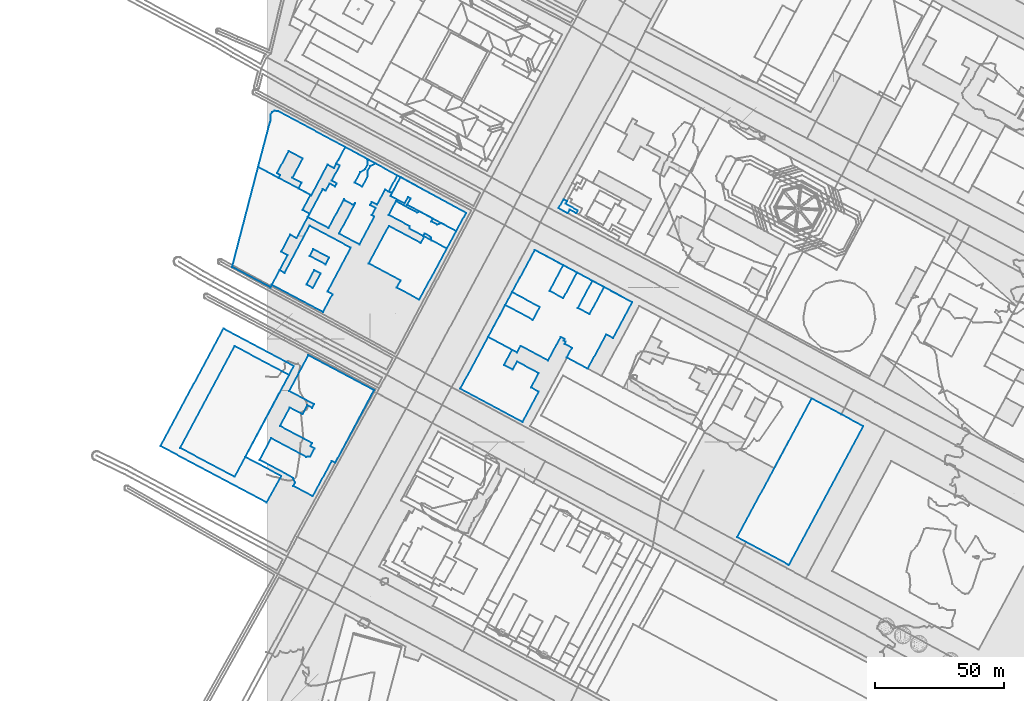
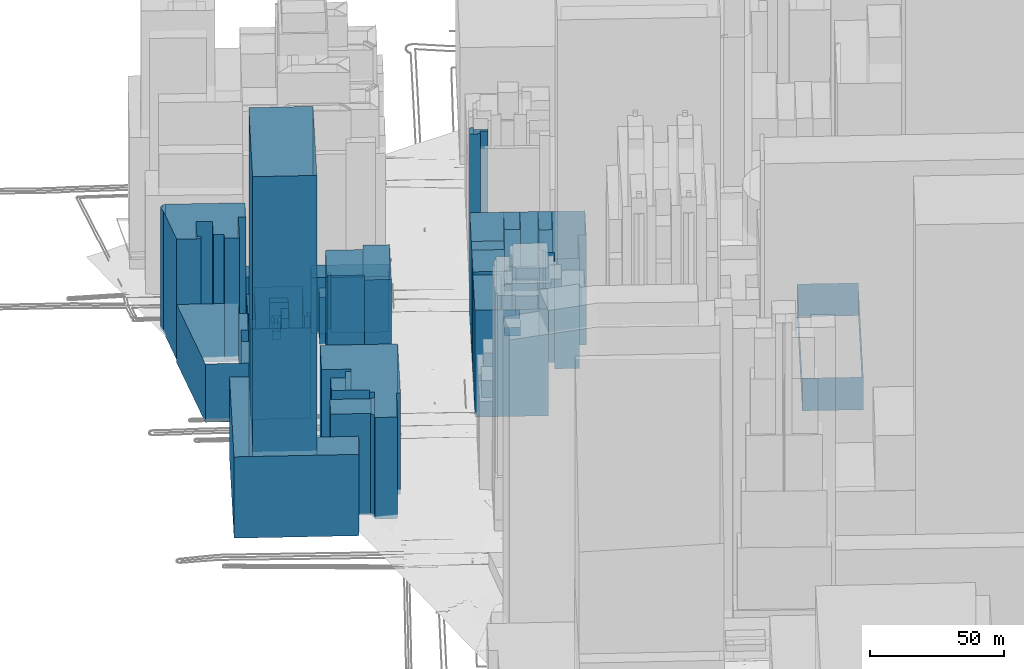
# Not in any storey, part 22 of 76: 21 walls.
"""IFC2X3 model written with IfcOpenShell, lengths in metres."""

from ifc_helpers import new_model, si_unit, frame, origin_with_axes, place, context, subcontext, project, faceted_brep, element, save


model = new_model("IFC2X3")

# Units and contexts
model_context = context("Model", 3, precision=1e-05, world=origin_with_axes())
body_context = subcontext(model_context, "Body", "Model", "MODEL_VIEW")
ifc_project = project(units=[si_unit("AREAUNIT", "SQUARE_METRE"), si_unit("LENGTHUNIT", "METRE")], contexts=[model_context])

# Walls
wall_1_placement = place(None, frame((182.6039745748, 162.5591833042, 20.6927717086), z_axis=(0.0, 0.0, 1.0), x_axis=(1.0, 0.0, 0.0)))
element("IfcWall", 1, at=wall_1_placement, Name="Mur 0", context=body_context, shape_type="Brep", body=[
    faceted_brep([(20.0810169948, -10.7688576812, 14.8999996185), (0.0, 0.0, 14.8999996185), (20.0810169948, -10.7688576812, 0.0), (0.0, 0.0, 0.0), (48.9829273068, 43.1023540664, 14.8999996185), (48.9829273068, 43.1023540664, 0.0), (28.9020091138, 53.8711326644, 14.8999996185), (28.9020091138, 53.8711326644, 0.0)], [[[0, 1, 2]], [[2, 1, 3]], [[4, 0, 5]], [[5, 0, 2]], [[1, 6, 3]], [[3, 6, 7]], [[6, 4, 7]], [[7, 4, 5]]]),
])
wall_2_placement = place(None, frame((85.8984085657, 240.2837612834, 20.6241127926), z_axis=(0.0, 0.0, 1.0), x_axis=(1.0, 0.0, 0.0)))
element("IfcWall", 2, at=wall_2_placement, Name="Mur 0", context=body_context, shape_type="Brep", body=[
    faceted_brep([(11.2465195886, -6.0311397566, 50.0), (0.0, 0.0, 50.0), (11.2465195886, -6.0311397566, 0.0), (0.0, 0.0, 0.0), (12.6512037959, -3.4168984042, 50.0), (12.6512037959, -3.4168984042, 0.0), (23.2861681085, -9.1220554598, 50.0), (23.2861681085, -9.1220554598, 0.0), (28.2024169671, 0.0388994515, 50.0), (28.2024169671, 0.0388994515, 0.0), (29.7229034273, -0.776106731, 50.0), (29.7229034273, -0.776106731, 0.0), (29.3592670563, -1.4464661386, 50.0), (29.3592670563, -1.4464661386, 0.0), (30.1152258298, -1.848467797, 50.0), (30.1152258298, -1.848467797, 0.0), (29.6773030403, -2.6640194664, 50.0), (29.6773030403, -2.6640194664, 0.0), (32.5654494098, -4.2180905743, 50.0), (32.5654494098, -4.2180905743, 0.0), (30.5658357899, -7.9383700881, 50.0), (30.5658357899, -7.9383700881, 0.0), (38.6867515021, -12.3182352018, 50.0), (38.6867515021, -12.3182352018, 0.0), (45.8336301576, 1.0208901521, 50.0), (45.8336301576, 1.0208901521, 0.0), (48.5348020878, -0.4243246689, 50.0), (48.5348020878, -0.4243246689, 0.0), (55.9958034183, 13.4846763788, 50.0), (55.9958034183, 13.4846763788, 0.0), (18.1278687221, 33.8059517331, 50.0), (18.1278687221, 33.8059517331, 0.0)], [[[0, 1, 2]], [[2, 1, 3]], [[4, 0, 5]], [[5, 0, 2]], [[6, 4, 7]], [[7, 4, 5]], [[8, 6, 9]], [[9, 6, 7]], [[10, 8, 11]], [[11, 8, 9]], [[12, 10, 13]], [[13, 10, 11]], [[14, 12, 15]], [[15, 12, 13]], [[16, 14, 17]], [[17, 14, 15]], [[18, 16, 19]], [[19, 16, 17]], [[20, 18, 21]], [[21, 18, 19]], [[22, 20, 23]], [[23, 20, 21]], [[24, 22, 25]], [[25, 22, 23]], [[26, 24, 27]], [[27, 24, 25]], [[28, 26, 29]], [[29, 26, 27]], [[1, 30, 3]], [[3, 30, 31]], [[30, 28, 31]], [[31, 28, 29]]]),
])
wall_3_placement = place(None, frame((85.8984085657, 240.2837612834, 20.6241127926), z_axis=(0.0, 0.0, 1.0), x_axis=(1.0, 0.0, 0.0)))
element("IfcWall", 3, at=wall_3_placement, Name="Mur 0", context=body_context, shape_type="Brep", body=[
    faceted_brep([(11.2465195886, -6.0311397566, 50.0), (0.0, 0.0, 50.0), (11.2465195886, -6.0311397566, 0.0), (0.0, 0.0, 0.0), (12.6512037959, -3.4168984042, 50.0), (12.6512037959, -3.4168984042, 0.0), (23.2861681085, -9.1220554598, 50.0), (23.2861681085, -9.1220554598, 0.0), (28.2024169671, 0.0388994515, 50.0), (28.2024169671, 0.0388994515, 0.0), (29.7229034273, -0.776106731, 50.0), (29.7229034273, -0.776106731, 0.0), (29.3592670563, -1.4464661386, 50.0), (29.3592670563, -1.4464661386, 0.0), (30.1152258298, -1.848467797, 50.0), (30.1152258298, -1.848467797, 0.0), (29.6773030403, -2.6640194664, 50.0), (29.6773030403, -2.6640194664, 0.0), (32.5654494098, -4.2180905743, 50.0), (32.5654494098, -4.2180905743, 0.0), (30.5658357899, -7.9383700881, 50.0), (30.5658357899, -7.9383700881, 0.0), (38.6867515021, -12.3182352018, 50.0), (38.6867515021, -12.3182352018, 0.0), (45.8336301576, 1.0208901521, 50.0), (45.8336301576, 1.0208901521, 0.0), (48.5348020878, -0.4243246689, 50.0), (48.5348020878, -0.4243246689, 0.0), (55.9958034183, 13.4846763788, 50.0), (55.9958034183, 13.4846763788, 0.0), (45.0379209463, 19.3747728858, 50.0), (45.0379209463, 19.3747728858, 0.0), (39.3945655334, 8.8619853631, 50.0), (39.3945655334, 8.8619853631, 0.0), (34.8585594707, 11.2961922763, 50.0), (34.8585594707, 11.2961922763, 0.0), (40.5020482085, 21.7978755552, 50.0), (40.5020482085, 21.7978755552, 0.0), (34.5220457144, 25.003566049, 50.0), (34.5220457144, 25.003566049, 0.0), (29.1928346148, 15.0606509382, 50.0), (29.1928346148, 15.0606509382, 0.0), (23.8498507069, 17.92958022, 50.0), (23.8498507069, 17.92958022, 0.0), (29.1875069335, 27.8725894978, 50.0), (29.1875069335, 27.8725894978, 0.0), (18.1278687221, 33.8059517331, 50.0), (18.1278687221, 33.8059517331, 0.0), (9.3283721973, 17.3945398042, 50.0), (9.3283721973, 17.3945398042, 0.0), (20.0566635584, 11.6460536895, 50.0), (20.0566635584, 11.6460536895, 0.0), (17.387953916, 6.6634513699, 50.0), (17.387953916, 6.6634513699, 0.0), (6.6595287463, 12.4230421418, 50.0), (6.6595287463, 12.4230421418, 0.0)], [[[0, 1, 2]], [[2, 1, 3]], [[4, 0, 5]], [[5, 0, 2]], [[6, 4, 7]], [[7, 4, 5]], [[8, 6, 9]], [[9, 6, 7]], [[10, 8, 11]], [[11, 8, 9]], [[12, 10, 13]], [[13, 10, 11]], [[14, 12, 15]], [[15, 12, 13]], [[16, 14, 17]], [[17, 14, 15]], [[18, 16, 19]], [[19, 16, 17]], [[20, 18, 21]], [[21, 18, 19]], [[22, 20, 23]], [[23, 20, 21]], [[24, 22, 25]], [[25, 22, 23]], [[26, 24, 27]], [[27, 24, 25]], [[28, 26, 29]], [[29, 26, 27]], [[30, 28, 31]], [[31, 28, 29]], [[32, 30, 33]], [[33, 30, 31]], [[34, 32, 35]], [[35, 32, 33]], [[36, 34, 37]], [[37, 34, 35]], [[38, 36, 39]], [[39, 36, 37]], [[40, 38, 41]], [[41, 38, 39]], [[42, 40, 43]], [[43, 40, 41]], [[44, 42, 45]], [[45, 42, 43]], [[46, 44, 47]], [[47, 44, 45]], [[48, 46, 49]], [[49, 46, 47]], [[50, 48, 51]], [[51, 48, 49]], [[52, 50, 53]], [[53, 50, 51]], [[1, 54, 3]], [[3, 54, 55]], [[54, 52, 55]], [[55, 52, 53]]]),
])
wall_4_placement = place(None, frame((109.7482592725, 258.2133415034, 22.1609130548), z_axis=(0.0, 0.0, 1.0), x_axis=(1.0, 0.0, 0.0)))
element("IfcWall", 4, at=wall_4_placement, Name="Mur 0", context=body_context, shape_type="Brep", body=[
    faceted_brep([(5.3429839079, -2.8689292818, 4.0), (0.0, 0.0, 4.0), (5.3429839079, -2.8689292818, 0.0), (0.0, 0.0, 0.0), (10.6721950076, 7.073985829, 4.0), (10.6721950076, 7.073985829, 0.0), (5.3376562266, 9.9430092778, 4.0), (5.3376562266, 9.9430092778, 0.0)], [[[0, 1, 2]], [[2, 1, 3]], [[4, 0, 5]], [[5, 0, 2]], [[1, 6, 3]], [[3, 6, 7]], [[6, 4, 7]], [[7, 4, 5]]]),
])
wall_5_placement = place(None, frame((113.2505831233, 290.2618220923, 23.4496714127), z_axis=(0.0, 0.0, 1.0), x_axis=(1.0, 0.0, 0.0)))
element("IfcWall", 5, at=wall_5_placement, Name="Mur 0", context=body_context, shape_type="Brep", body=[
    faceted_brep([(3.5507210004, -1.912748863, 70.0), (0.0, 0.0, 70.0), (3.5507210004, -1.912748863, 0.0), (0.0, 0.0, 0.0), (4.3278559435, -0.5048368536, 70.0), (4.3278559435, -0.5048368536, 0.0), (6.9103282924, -1.9070263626, 70.0), (6.9103282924, -1.9070263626, 0.0), (7.4887654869, -0.8344899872, 70.0), (7.4887654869, -0.8344899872, 0.0), (2.7316622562, 1.7414799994, 70.0), (2.7316622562, 1.7414799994, 0.0), (3.2685432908, 2.7580220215, 70.0), (3.2685432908, 2.7580220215, 0.0), (1.9180329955, 3.4750820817, 70.0), (1.9180329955, 3.4750820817, 0.0)], [[[0, 1, 2]], [[2, 1, 3]], [[4, 0, 5]], [[5, 0, 2]], [[6, 4, 7]], [[7, 4, 5]], [[8, 6, 9]], [[9, 6, 7]], [[10, 8, 11]], [[11, 8, 9]], [[12, 10, 13]], [[13, 10, 11]], [[1, 14, 3]], [[3, 14, 15]], [[14, 12, 15]], [[15, 12, 13]]]),
])
wall_6_placement = place(None, frame((-13.4692579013, 267.507853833, 20.5235292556), z_axis=(0.0, 0.0, 1.0), x_axis=(1.0, 0.0, 0.0)))
element("IfcWall", 6, at=wall_6_placement, Name="Mur 0", context=body_context, shape_type="Brep", body=[
    faceted_brep([(14.8729310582, -7.9321108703, 26.5), (0.0, 0.0, 26.5), (14.8729310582, -7.9321108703, 0.0), (0.0, 0.0, 0.0), (21.5236253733, 4.535158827, 26.5), (21.5236253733, 4.535158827, 0.0), (19.0179048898, 5.871663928, 26.5), (19.0179048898, 5.871663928, 0.0), (22.5456521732, 12.4851249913, 26.5), (22.5456521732, 12.4851249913, 0.0), (25.0429308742, 11.1485231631, 26.5), (25.0429308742, 11.1485231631, 0.0), (30.1073251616, 20.644198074, 26.5), (30.1073251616, 20.644198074, 0.0), (27.3212769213, 22.1328790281, 26.5), (27.3212769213, 22.1328790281, 0.0), (30.4109499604, 27.9418994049, 26.5), (30.4109499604, 27.9418994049, 0.0), (10.0850586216, 38.7750178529, 26.5), (10.0850586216, 38.7750178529, 0.0)], [[[0, 1, 2]], [[2, 1, 3]], [[4, 0, 5]], [[5, 0, 2]], [[6, 4, 7]], [[7, 4, 5]], [[8, 6, 9]], [[9, 6, 7]], [[10, 8, 11]], [[11, 8, 9]], [[12, 10, 13]], [[13, 10, 11]], [[14, 12, 15]], [[15, 12, 13]], [[16, 14, 17]], [[17, 14, 15]], [[1, 18, 3]], [[3, 18, 19]], [[18, 16, 19]], [[19, 16, 17]]]),
])
wall_7_placement = place(None, frame((-3.3841992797, 306.2828716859, 21.8195391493), z_axis=(0.0, 0.0, 1.0), x_axis=(1.0, 0.0, 0.0)))
element("IfcWall", 7, at=wall_7_placement, Name="Mur 0", context=body_context, shape_type="Brep", body=[
    faceted_brep([(7.9587232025, -4.2375453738, 54.9000015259), (0.0, 0.0, 54.9000015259), (7.9587232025, -4.2375453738, 0.0), (0.0, 0.0, 0.0), (8.5865292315, -3.0534231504, 54.9000015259), (8.5865292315, -3.0534231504, 0.0), (7.3125093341, -2.3798647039, 54.9000015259), (7.3125093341, -2.3798647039, 0.0), (11.8893541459, 6.2108665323, 54.9000015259), (11.8893541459, 6.2108665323, 0.0), (17.3086069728, 3.3094443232, 54.9000015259), (17.3086069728, 3.3094443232, 0.0), (13.3099607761, -4.1865612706, 54.9000015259), (13.3099607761, -4.1865612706, 0.0), (16.8944091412, -6.0989674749, 54.9000015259), (16.8944091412, -6.0989674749, 0.0), (15.6882811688, -8.366718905, 54.9000015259), (15.6882811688, -8.366718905, 0.0), (20.6318009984, -11.0072048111, 54.9000015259), (20.6318009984, -11.0072048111, 0.0), (26.9684045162, 0.8791195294, 54.9000015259), (26.9684045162, 0.8791195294, 0.0), (29.4571079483, -0.4464745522, 54.9000015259), (29.4571079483, -0.4464745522, 0.0), (33.8274296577, 7.7532955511, 54.9000015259), (33.8274296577, 7.7532955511, 0.0), (7.7846017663, 21.6841879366, 54.9000015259), (7.7846017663, 21.6841879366, 0.0), (6.347319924, 21.8784555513, 54.9000015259), (6.347319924, 21.8784555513, 0.0), (5.3911895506, 21.3455570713, 54.9000015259), (5.3911895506, 21.3455570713, 0.0), (4.8705322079, 20.3847231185, 54.9000015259), (4.8705322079, 20.3847231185, 0.0), (4.8038334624, 18.1301925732, 54.9000015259), (4.8038334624, 18.1301925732, 0.0)], [[[0, 1, 2]], [[2, 1, 3]], [[4, 0, 5]], [[5, 0, 2]], [[6, 4, 7]], [[7, 4, 5]], [[8, 6, 9]], [[9, 6, 7]], [[10, 8, 11]], [[11, 8, 9]], [[12, 10, 13]], [[13, 10, 11]], [[14, 12, 15]], [[15, 12, 13]], [[16, 14, 17]], [[17, 14, 15]], [[18, 16, 19]], [[19, 16, 17]], [[20, 18, 21]], [[21, 18, 19]], [[22, 20, 23]], [[23, 20, 21]], [[24, 22, 25]], [[25, 22, 23]], [[26, 24, 27]], [[27, 24, 25]], [[28, 26, 29]], [[29, 26, 27]], [[30, 28, 31]], [[31, 28, 29]], [[32, 30, 33]], [[33, 30, 31]], [[1, 34, 3]], [[3, 34, 35]], [[34, 32, 35]], [[35, 32, 33]]]),
])
wall_8_placement = place(None, frame((47.3240526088, 296.7460494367, 22.6341458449), z_axis=(0.0, 0.0, 1.0), x_axis=(1.0, 0.0, 0.0)))
element("IfcWall", 8, at=wall_8_placement, Name="Mur 0", context=body_context, shape_type="Brep", body=[
    faceted_brep([(1.2145569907, -0.6409345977, 4.0), (0.0, 0.0, 4.0), (1.2145569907, -0.6409345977, 0.0), (0.0, 0.0, 0.0), (4.5862716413, 5.5932606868, 4.0), (4.5862716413, 5.5932606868, 0.0), (3.3375678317, 6.267105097, 4.0), (3.3375678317, 6.267105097, 0.0)], [[[0, 1, 2]], [[2, 1, 3]], [[4, 0, 5]], [[5, 0, 2]], [[1, 6, 3]], [[3, 6, 7]], [[6, 4, 7]], [[7, 4, 5]]]),
])
wall_9_placement = place(None, frame((15.9441565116, 286.8450369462, 20.647913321), z_axis=(0.0, 0.0, 1.0), x_axis=(1.0, 0.0, 0.0)))
element("IfcWall", 9, at=wall_9_placement, Name="Mur 0", context=body_context, shape_type="Brep", body=[
    faceted_brep([(8.0352328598, -4.2810464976, 27.3999996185), (0.0, 0.0, 27.3999996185), (8.0352328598, -4.2810464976, 0.0), (0.0, 0.0, 0.0), (14.0662474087, 7.0244198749, 27.3999996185), (14.0662474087, 7.0244198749, 0.0), (14.5213100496, 6.363565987, 27.3999996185), (14.5213100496, 6.363565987, 0.0), (17.3582596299, 4.8532774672, 27.3999996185), (17.3582596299, 4.8532774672, 0.0), (18.4068488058, 5.4205597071, 27.3999996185), (18.4068488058, 5.4205597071, 0.0), (12.0868715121, -6.4433762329, 27.3999996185), (12.0868715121, -6.4433762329, 0.0), (20.0203200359, -10.6811822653, 27.3999996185), (20.0203200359, -10.6811822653, 0.0), (25.8033972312, 0.1662240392, 27.3999996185), (25.8033972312, 0.1662240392, 0.0), (24.7841247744, 0.7095061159, 27.3999996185), (24.7841247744, 0.7095061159, 0.0), (26.2793412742, 3.5246280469, 27.3999996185), (26.2793412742, 3.5246280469, 0.0), (24.1813290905, 4.6438087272, 27.3999996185), (24.1813290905, 4.6438087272, 0.0), (24.8257532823, 5.8503314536, 27.3999996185), (24.8257532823, 5.8503314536, 0.0), (26.8302782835, 4.7855771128, 27.3999996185), (26.8302782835, 4.7855771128, 0.0), (29.9614850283, 10.6506035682, 27.3999996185), (29.9614850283, 10.6506035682, 0.0), (31.3798960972, 9.9010124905, 27.3999996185), (31.3798960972, 9.9010124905, 0.0), (34.717463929, 16.1681175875, 27.3999996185), (34.717463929, 16.1681175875, 0.0), (14.4990738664, 27.1911302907, 27.3999996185), (14.4990738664, 27.1911302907, 0.0), (11.0539615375, 20.7340482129, 27.3999996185), (11.0539615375, 20.7340482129, 0.0), (12.3874511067, 20.0278770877, 27.3999996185), (12.3874511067, 20.0278770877, 0.0), (9.2563637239, 14.1517573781, 27.3999996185), (9.2563637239, 14.1517573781, 0.0), (11.2354346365, 13.0978057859, 27.3999996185), (11.2354346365, 13.0978057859, 0.0), (10.5910089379, 11.8912842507, 27.3999996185), (10.5910089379, 11.8912842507, 0.0), (8.3996436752, 13.0537949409, 27.3999996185), (8.3996436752, 13.0537949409, 0.0), (6.9042937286, 10.2497774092, 27.3999996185), (6.9042937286, 10.2497774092, 0.0), (5.7830971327, 10.847390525, 27.3999996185), (5.7830971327, 10.847390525, 0.0)], [[[0, 1, 2]], [[2, 1, 3]], [[4, 0, 5]], [[5, 0, 2]], [[6, 4, 7]], [[7, 4, 5]], [[8, 6, 9]], [[9, 6, 7]], [[10, 8, 11]], [[11, 8, 9]], [[12, 10, 13]], [[13, 10, 11]], [[14, 12, 15]], [[15, 12, 13]], [[16, 14, 17]], [[17, 14, 15]], [[18, 16, 19]], [[19, 16, 17]], [[20, 18, 21]], [[21, 18, 19]], [[22, 20, 23]], [[23, 20, 21]], [[24, 22, 25]], [[25, 22, 23]], [[26, 24, 27]], [[27, 24, 25]], [[28, 26, 29]], [[29, 26, 27]], [[30, 28, 31]], [[31, 28, 29]], [[32, 30, 33]], [[33, 30, 31]], [[34, 32, 35]], [[35, 32, 33]], [[36, 34, 37]], [[37, 34, 35]], [[38, 36, 39]], [[39, 36, 37]], [[40, 38, 41]], [[41, 38, 39]], [[42, 40, 43]], [[43, 40, 41]], [[44, 42, 45]], [[45, 42, 43]], [[46, 44, 47]], [[47, 44, 45]], [[48, 46, 49]], [[49, 46, 47]], [[1, 50, 3]], [[3, 50, 51]], [[50, 48, 51]], [[51, 48, 49]]]),
])
wall_10_placement = place(None, frame((15.9441565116, 286.8450369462, 20.647913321), z_axis=(0.0, 0.0, 1.0), x_axis=(1.0, 0.0, 0.0)))
element("IfcWall", 10, at=wall_10_placement, Name="Mur 0", context=body_context, shape_type="Brep", body=[
    faceted_brep([(8.0352328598, -4.2810464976, 27.3999996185), (0.0, 0.0, 27.3999996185), (8.0352328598, -4.2810464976, 0.0), (0.0, 0.0, 0.0), (14.0662474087, 7.0244198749, 27.3999996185), (14.0662474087, 7.0244198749, 0.0), (14.5213100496, 6.363565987, 27.3999996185), (14.5213100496, 6.363565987, 0.0), (17.3582596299, 4.8532774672, 27.3999996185), (17.3582596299, 4.8532774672, 0.0), (18.4068488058, 5.4205597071, 27.3999996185), (18.4068488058, 5.4205597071, 0.0), (12.0868715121, -6.4433762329, 27.3999996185), (12.0868715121, -6.4433762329, 0.0), (20.0203200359, -10.6811822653, 27.3999996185), (20.0203200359, -10.6811822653, 0.0), (25.8033972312, 0.1662240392, 27.3999996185), (25.8033972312, 0.1662240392, 0.0), (24.7841247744, 0.7095061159, 27.3999996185), (24.7841247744, 0.7095061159, 0.0), (26.2793412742, 3.5246280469, 27.3999996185), (26.2793412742, 3.5246280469, 0.0), (24.1813290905, 4.6438087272, 27.3999996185), (24.1813290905, 4.6438087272, 0.0), (24.8257532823, 5.8503314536, 27.3999996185), (24.8257532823, 5.8503314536, 0.0), (26.8302782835, 4.7855771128, 27.3999996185), (26.8302782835, 4.7855771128, 0.0), (29.9614850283, 10.6506035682, 27.3999996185), (29.9614850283, 10.6506035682, 0.0), (31.3798960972, 9.9010124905, 27.3999996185), (31.3798960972, 9.9010124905, 0.0), (34.717463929, 16.1681175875, 27.3999996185), (34.717463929, 16.1681175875, 0.0), (26.2477906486, 20.7882623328, 27.3999996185), (26.2477906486, 20.7882623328, 0.0), (24.2412699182, 19.8434861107, 27.3999996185), (24.2412699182, 19.8434861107, 0.0), (23.2746353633, 18.0337020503, 27.3999996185), (23.2746353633, 18.0337020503, 0.0), (23.2917057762, 15.8356544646, 27.3999996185), (23.2917057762, 15.8356544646, 0.0), (21.13557285, 11.7805123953, 27.3999996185), (21.13557285, 11.7805123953, 0.0), (18.213707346, 13.3342229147, 27.3999996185), (18.213707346, 13.3342229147, 0.0), (20.3782815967, 17.3894620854, 27.3999996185), (20.3782815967, 17.3894620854, 0.0), (22.2214757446, 18.5876933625, 27.3999996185), (22.2214757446, 18.5876933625, 0.0), (23.1881104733, 20.3974772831, 27.3999996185), (23.1881104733, 20.3974772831, 0.0), (23.1045489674, 22.5059351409, 27.3999996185), (23.1045489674, 22.5059351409, 0.0), (14.4990738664, 27.1911302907, 27.3999996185), (14.4990738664, 27.1911302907, 0.0), (11.0539615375, 20.7340482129, 27.3999996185), (11.0539615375, 20.7340482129, 0.0), (12.3874511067, 20.0278770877, 27.3999996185), (12.3874511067, 20.0278770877, 0.0), (9.2563637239, 14.1517573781, 27.3999996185), (9.2563637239, 14.1517573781, 0.0), (11.2354346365, 13.0978057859, 27.3999996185), (11.2354346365, 13.0978057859, 0.0), (10.5910089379, 11.8912842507, 27.3999996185), (10.5910089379, 11.8912842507, 0.0), (8.3996436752, 13.0537949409, 27.3999996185), (8.3996436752, 13.0537949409, 0.0), (6.9042937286, 10.2497774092, 27.3999996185), (6.9042937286, 10.2497774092, 0.0), (5.7830971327, 10.847390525, 27.3999996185), (5.7830971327, 10.847390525, 0.0)], [[[0, 1, 2]], [[2, 1, 3]], [[4, 0, 5]], [[5, 0, 2]], [[6, 4, 7]], [[7, 4, 5]], [[8, 6, 9]], [[9, 6, 7]], [[10, 8, 11]], [[11, 8, 9]], [[12, 10, 13]], [[13, 10, 11]], [[14, 12, 15]], [[15, 12, 13]], [[16, 14, 17]], [[17, 14, 15]], [[18, 16, 19]], [[19, 16, 17]], [[20, 18, 21]], [[21, 18, 19]], [[22, 20, 23]], [[23, 20, 21]], [[24, 22, 25]], [[25, 22, 23]], [[26, 24, 27]], [[27, 24, 25]], [[28, 26, 29]], [[29, 26, 27]], [[30, 28, 31]], [[31, 28, 29]], [[32, 30, 33]], [[33, 30, 31]], [[34, 32, 35]], [[35, 32, 33]], [[36, 34, 37]], [[37, 34, 35]], [[38, 36, 39]], [[39, 36, 37]], [[40, 38, 41]], [[41, 38, 39]], [[42, 40, 43]], [[43, 40, 41]], [[44, 42, 45]], [[45, 42, 43]], [[46, 44, 47]], [[47, 44, 45]], [[48, 46, 49]], [[49, 46, 47]], [[50, 48, 51]], [[51, 48, 49]], [[52, 50, 53]], [[53, 50, 51]], [[54, 52, 55]], [[55, 52, 53]], [[56, 54, 57]], [[57, 54, 55]], [[58, 56, 59]], [[59, 56, 57]], [[60, 58, 61]], [[61, 58, 59]], [[62, 60, 63]], [[63, 60, 61]], [[64, 62, 65]], [[65, 62, 63]], [[66, 64, 67]], [[67, 64, 65]], [[68, 66, 69]], [[69, 66, 67]], [[1, 70, 3]], [[3, 70, 71]], [[70, 68, 71]], [[71, 68, 69]]]),
])
wall_11_placement = place(None, frame((34.1578638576, 300.1792598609, 21.4353953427), z_axis=(0.0, 0.0, 1.0), x_axis=(1.0, 0.0, 0.0)))
element("IfcWall", 11, at=wall_11_placement, Name="Mur 0", context=body_context, shape_type="Brep", body=[
    faceted_brep([(2.921865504, -1.5537105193, 4.0), (0.0, 0.0, 4.0), (2.921865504, -1.5537105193, 0.0), (0.0, 0.0, 0.0), (5.0779984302, 2.5014315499, 4.0), (5.0779984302, 2.5014315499, 0.0), (5.0609280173, 4.6994791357, 4.0), (5.0609280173, 4.6994791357, 0.0), (6.0275625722, 6.509263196, 4.0), (6.0275625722, 6.509263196, 0.0), (8.0340833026, 7.4540394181, 4.0), (8.0340833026, 7.4540394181, 0.0), (4.8908416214, 9.1717122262, 4.0), (4.8908416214, 9.1717122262, 0.0), (4.9744031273, 7.0632543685, 4.0), (4.9744031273, 7.0632543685, 0.0), (4.0077683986, 5.2534704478, 4.0), (4.0077683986, 5.2534704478, 0.0), (2.1645742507, 4.0552391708, 4.0), (2.1645742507, 4.0552391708, 0.0)], [[[0, 1, 2]], [[2, 1, 3]], [[4, 0, 5]], [[5, 0, 2]], [[6, 4, 7]], [[7, 4, 5]], [[8, 6, 9]], [[9, 6, 7]], [[10, 8, 11]], [[11, 8, 9]], [[12, 10, 13]], [[13, 10, 11]], [[14, 12, 15]], [[15, 12, 13]], [[16, 14, 17]], [[17, 14, 15]], [[1, 18, 3]], [[3, 18, 19]], [[18, 16, 19]], [[19, 16, 17]]]),
])
wall_12_placement = place(None, frame((47.2941529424, 287.6862653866, 22.3142509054), z_axis=(0.0, 0.0, 1.0), x_axis=(1.0, 0.0, 0.0)))
element("IfcWall", 12, at=wall_12_placement, Name="Mur 0", context=body_context, shape_type="Brep", body=[
    faceted_brep([(8.2307944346, -4.4008675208, 21.5), (0.0, 0.0, 21.5), (8.2307944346, -4.4008675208, 0.0), (0.0, 0.0, 0.0), (8.2421345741, -5.3777339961, 21.5), (8.2421345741, -5.3777339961, 0.0), (13.4574445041, -8.1593656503, 21.5), (13.4574445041, -8.1593656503, 0.0), (13.9699153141, -7.2208270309, 21.5), (13.9699153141, -7.2208270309, 0.0), (16.3907258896, -8.5138902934, 21.5), (16.3907258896, -8.5138902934, 0.0), (16.6767950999, -9.8872482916, 21.5), (16.6767950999, -9.8872482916, 0.0), (22.5887243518, -13.0493648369, 21.5), (22.5887243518, -13.0493648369, 0.0), (26.2412137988, -6.2789916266, 21.5), (26.2412137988, -6.2789916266, 0.0), (20.3292881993, -3.1168780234, 21.5), (20.3292881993, -3.1168780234, 0.0), (18.9358097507, -3.7880894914, 21.5), (18.9358097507, -3.7880894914, 0.0), (16.5150002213, -2.4950270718, 21.5), (16.5150002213, -2.4950270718, 0.0), (17.1100684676, -1.400097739, 21.5), (17.1100684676, -1.400097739, 0.0), (11.8946328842, 1.3926320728, 21.5), (11.8946328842, 1.3926320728, 0.0), (11.0899102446, 0.905893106, 21.5), (11.0899102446, 0.905893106, 0.0), (2.8591197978, 5.3067574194, 21.5), (2.8591197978, 5.3067574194, 0.0)], [[[0, 1, 2]], [[2, 1, 3]], [[4, 0, 5]], [[5, 0, 2]], [[6, 4, 7]], [[7, 4, 5]], [[8, 6, 9]], [[9, 6, 7]], [[10, 8, 11]], [[11, 8, 9]], [[12, 10, 13]], [[13, 10, 11]], [[14, 12, 15]], [[15, 12, 13]], [[16, 14, 17]], [[17, 14, 15]], [[18, 16, 19]], [[19, 16, 17]], [[20, 18, 21]], [[21, 18, 19]], [[22, 20, 23]], [[23, 20, 21]], [[24, 22, 25]], [[25, 22, 23]], [[26, 24, 27]], [[27, 24, 25]], [[28, 26, 29]], [[29, 26, 27]], [[1, 30, 3]], [[3, 30, 31]], [[30, 28, 31]], [[31, 28, 29]]]),
])
wall_13_placement = place(None, frame((47.9849679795, 295.0772811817, 22.6386360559), z_axis=(0.0, 0.0, 1.0), x_axis=(1.0, 0.0, 0.0)))
element("IfcWall", 13, at=wall_13_placement, Name="Mur 0", context=body_context, shape_type="Brep", body=[
    faceted_brep([(5.4873189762, -2.9450128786, 25.2999992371), (0.0, 0.0, 25.2999992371), (5.4873189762, -2.9450128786, 0.0), (0.0, 0.0, 0.0), (6.8259021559, -0.4536717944, 25.2999992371), (6.8259021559, -0.4536717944, 0.0), (7.8112848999, -0.9862431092, 25.2999992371), (7.8112848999, -0.9862431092, 0.0), (6.4725730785, -3.4664836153, 25.2999992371), (6.4725730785, -3.4664836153, 0.0), (25.5503987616, -13.6700074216, 25.2999992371), (25.5503987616, -13.6700074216, 0.0), (29.3597658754, -6.5980497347, 25.2999992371), (29.3597658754, -6.5980497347, 0.0), (3.9253562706, 7.2620289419, 25.2999992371), (3.9253562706, 7.2620289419, 0.0)], [[[0, 1, 2]], [[2, 1, 3]], [[4, 0, 5]], [[5, 0, 2]], [[6, 4, 7]], [[7, 4, 5]], [[8, 6, 9]], [[9, 6, 7]], [[10, 8, 11]], [[11, 8, 9]], [[12, 10, 13]], [[13, 10, 11]], [[1, 14, 3]], [[3, 14, 15]], [[14, 12, 15]], [[15, 12, 13]]]),
])
wall_14_placement = place(None, frame((47.3240526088, 296.7460494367, 22.6341458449), z_axis=(0.0, 0.0, 1.0), x_axis=(1.0, 0.0, 0.0)))
element("IfcWall", 14, at=wall_14_placement, Name="Mur 0", context=body_context, shape_type="Brep", body=[
    faceted_brep([(1.2145569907, -0.6409345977, 25.2999992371), (0.0, 0.0, 25.2999992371), (1.2145569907, -0.6409345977, 0.0), (0.0, 0.0, 0.0), (0.6609153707, -1.668768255, 25.2999992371), (0.6609153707, -1.668768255, 0.0), (6.1482343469, -4.6137811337, 25.2999992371), (6.1482343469, -4.6137811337, 0.0), (7.4868175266, -2.1224400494, 25.2999992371), (7.4868175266, -2.1224400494, 0.0), (8.4722002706, -2.6550113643, 25.2999992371), (8.4722002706, -2.6550113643, 0.0), (7.1334884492, -5.1352518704, 25.2999992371), (7.1334884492, -5.1352518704, 0.0), (26.2113141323, -15.3387756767, 25.2999992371), (26.2113141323, -15.3387756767, 0.0), (30.0206812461, -8.2668179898, 25.2999992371), (30.0206812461, -8.2668179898, 0.0), (3.3375678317, 6.267105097, 25.2999992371), (3.3375678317, 6.267105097, 0.0)], [[[0, 1, 2]], [[2, 1, 3]], [[4, 0, 5]], [[5, 0, 2]], [[6, 4, 7]], [[7, 4, 5]], [[8, 6, 9]], [[9, 6, 7]], [[10, 8, 11]], [[11, 8, 9]], [[12, 10, 13]], [[13, 10, 11]], [[14, 12, 15]], [[15, 12, 13]], [[16, 14, 17]], [[17, 14, 15]], [[1, 18, 3]], [[3, 18, 19]], [[18, 16, 19]], [[19, 16, 17]]]),
])
wall_15_placement = place(None, frame((39.5439098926, 268.8668109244, 21.829392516), z_axis=(0.0, 0.0, 1.0), x_axis=(1.0, 0.0, 0.0)))
element("IfcWall", 15, at=wall_15_placement, Name="Mur 0", context=body_context, shape_type="Brep", body=[
    faceted_brep([(12.3759530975, -6.6176192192, 45.9000015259), (0.0, 0.0, 45.9000015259), (12.3759530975, -6.6176192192, 0.0), (0.0, 0.0, 0.0), (10.8802187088, -9.3883399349, 45.9000015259), (10.8802187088, -9.3883399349, 0.0), (19.6376943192, -14.0717489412, 45.9000015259), (19.6376943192, -14.0717489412, 0.0), (30.3389674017, 5.7700896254, 45.9000015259), (30.3389674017, 5.7700896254, 0.0), (21.5815076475, 10.4534858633, 45.9000015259), (21.5815076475, 10.4534858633, 0.0), (20.2344833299, 7.9620457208, 45.9000015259), (20.2344833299, 7.9620457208, 0.0), (7.8585467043, 14.5796516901, 45.9000015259), (7.8585467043, 14.5796516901, 0.0)], [[[0, 1, 2]], [[2, 1, 3]], [[4, 0, 5]], [[5, 0, 2]], [[6, 4, 7]], [[7, 4, 5]], [[8, 6, 9]], [[9, 6, 7]], [[10, 8, 11]], [[11, 8, 9]], [[12, 10, 13]], [[13, 10, 11]], [[1, 14, 3]], [[3, 14, 15]], [[14, 12, 15]], [[15, 12, 13]]]),
])
wall_16_placement = place(None, frame((92.5579373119, 252.7068034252, 21.8391315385), z_axis=(0.0, 0.0, 1.0), x_axis=(1.0, 0.0, 0.0)))
element("IfcWall", 16, at=wall_16_placement, Name="Mur 0", context=body_context, shape_type="Brep", body=[
    faceted_brep([(10.7284251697, -5.759590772, 4.0), (0.0, 0.0, 4.0), (10.7284251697, -5.759590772, 0.0), (0.0, 0.0, 0.0), (13.3971348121, -0.7769884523, 4.0), (13.3971348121, -0.7769884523, 0.0), (2.6688434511, 4.9714976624, 4.0), (2.6688434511, 4.9714976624, 0.0)], [[[0, 1, 2]], [[2, 1, 3]], [[4, 0, 5]], [[5, 0, 2]], [[1, 6, 3]], [[3, 6, 7]], [[6, 4, 7]], [[7, 4, 5]]]),
])
wall_17_placement = place(None, frame((75.1238683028, 220.2079028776, 20.5185789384), z_axis=(0.0, 0.0, 1.0), x_axis=(1.0, 0.0, 0.0)))
element("IfcWall", 17, at=wall_17_placement, Name="Mur 0", context=body_context, shape_type="Brep", body=[
    faceted_brep([(24.1325284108, -12.9425374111, 48.5999984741), (0.0, 0.0, 48.5999984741), (24.1325284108, -12.9425374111, 0.0), (0.0, 0.0, 0.0), (30.4615452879, -1.1339469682, 48.5999984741), (30.4615452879, -1.1339469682, 0.0), (27.4290071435, 0.4961679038, 48.5999984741), (27.4290071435, 0.4961679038, 0.0), (30.411754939, 6.0597342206, 48.5999984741), (30.411754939, 6.0597342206, 0.0), (22.0193408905, 10.5585915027, 48.5999984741), (22.0193408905, 10.5585915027, 0.0), (20.3502373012, 7.4527804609, 48.5999984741), (20.3502373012, 7.4527804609, 0.0), (16.9270008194, 9.2893047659, 48.5999984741), (16.9270008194, 9.2893047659, 0.0), (20.0504016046, 15.09874989, 48.5999984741), (20.0504016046, 15.09874989, 0.0), (10.7745402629, 20.0758584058, 48.5999984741), (10.7745402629, 20.0758584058, 0.0)], [[[0, 1, 2]], [[2, 1, 3]], [[4, 0, 5]], [[5, 0, 2]], [[6, 4, 7]], [[7, 4, 5]], [[8, 6, 9]], [[9, 6, 7]], [[10, 8, 11]], [[11, 8, 9]], [[12, 10, 13]], [[13, 10, 11]], [[14, 12, 15]], [[15, 12, 13]], [[16, 14, 17]], [[17, 14, 15]], [[1, 18, 3]], [[3, 18, 19]], [[18, 16, 19]], [[19, 16, 17]]]),
])
wall_18_placement = place(None, frame((1.9323894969, 260.5699769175, 20.5582452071), z_axis=(0.0, 0.0, 1.0), x_axis=(1.0, 0.0, 0.0)))
element("IfcWall", 18, at=wall_18_placement, Name="Mur 0", context=body_context, shape_type="Brep", body=[
    faceted_brep([(19.884421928, -10.6050822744, 41.2000007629), (0.0, 0.0, 41.2000007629), (19.884421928, -10.6050822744, 0.0), (0.0, 0.0, 0.0), (23.5608715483, -3.7123317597, 41.2000007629), (23.5608715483, -3.7123317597, 0.0), (21.6242486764, -2.6800914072, 41.2000007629), (21.6242486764, -2.6800914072, 0.0), (30.7036559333, 14.3562056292, 41.2000007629), (30.7036559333, 14.3562056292, 0.0), (14.6755029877, 22.9076776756, 41.2000007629), (14.6755029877, 22.9076776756, 0.0), (4.9268330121, 4.6201840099, 41.2000007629), (4.9268330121, 4.6201840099, 0.0), (3.015664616, 5.6416221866, 41.2000007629), (3.015664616, 5.6416221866, 0.0), (16.4710095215, 5.6645136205, 41.2000007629), (13.4801606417, 0.0675826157, 41.2000007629), (16.4710095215, 5.6645136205, 0.0), (13.4801606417, 0.0675826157, 0.0), (18.9427160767, 4.3498225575, 41.2000007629), (18.9427160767, 4.3498225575, 0.0), (15.9519972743, -1.2582102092, 41.2000007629), (15.9519972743, -1.2582102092, 0.0), (16.1062463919, 13.820434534, 41.2000007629), (14.7016706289, 11.1951078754, 41.2000007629), (16.1062463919, 13.820434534, 0.0), (14.7016706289, 11.1951078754, 0.0), (22.2473331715, 10.5499185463, 41.2000007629), (22.2473331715, 10.5499185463, 0.0), (20.8513279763, 7.9135878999, 41.2000007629), (20.8513279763, 7.9135878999, 0.0)], [[[0, 1, 2]], [[2, 1, 3]], [[4, 0, 5]], [[5, 0, 2]], [[6, 4, 7]], [[7, 4, 5]], [[8, 6, 9]], [[9, 6, 7]], [[10, 8, 11]], [[11, 8, 9]], [[12, 10, 13]], [[13, 10, 11]], [[1, 14, 3]], [[3, 14, 15]], [[14, 12, 15]], [[15, 12, 13]], [[16, 17, 18]], [[18, 17, 19]], [[20, 16, 21]], [[21, 16, 18]], [[17, 22, 19]], [[19, 22, 23]], [[22, 20, 23]], [[23, 20, 21]], [[24, 25, 26]], [[26, 25, 27]], [[28, 24, 29]], [[29, 24, 26]], [[25, 30, 27]], [[27, 30, 31]], [[30, 28, 31]], [[31, 28, 29]]]),
])
wall_19_placement = place(None, frame((-2.7913984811, 192.6027250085, 19.7081583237), z_axis=(0.0, 0.0, 1.0), x_axis=(1.0, 0.0, 0.0)))
element("IfcWall", 19, at=wall_19_placement, Name="Mur 0", context=body_context, shape_type="Brep", body=[
    faceted_brep([(13.0981058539, -7.0089939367, 46.2000007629), (0.0, 0.0, 46.2000007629), (13.0981058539, -7.0089939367, 0.0), (0.0, 0.0, 0.0), (13.7530284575, -8.8887774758, 46.2000007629), (13.7530284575, -8.8887774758, 0.0), (13.1169008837, -10.0840985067, 46.2000007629), (13.1169008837, -10.0840985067, 0.0), (20.6597368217, -14.1155150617, 46.2000007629), (20.6597368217, -14.1155150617, 0.0), (27.9882930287, -0.4080177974, 46.2000007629), (27.9882930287, -0.4080177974, 0.0), (29.3389411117, -1.1361950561, 46.2000007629), (29.3389411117, -1.1361950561, 0.0), (44.4009101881, 27.0273767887, 46.2000007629), (44.4009101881, 27.0273767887, 0.0), (18.926971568, 40.6428730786, 46.2000007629), (18.926971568, 40.6428730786, 0.0), (11.4828536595, 26.7119974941, 46.2000007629), (11.4828536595, 26.7119974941, 0.0), (21.1066720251, 21.5722969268, 46.2000007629), (21.1066720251, 21.5722969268, 0.0), (20.3713252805, 20.1981878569, 46.2000007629), (20.3713252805, 20.1981878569, 0.0), (18.5196108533, 21.1870066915, 46.2000007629), (18.5196108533, 21.1870066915, 0.0), (16.6440978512, 17.6791392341, 46.2000007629), (16.6440978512, 17.6791392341, 0.0), (11.7089640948, 20.3197258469, 46.2000007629), (11.7089640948, 20.3197258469, 0.0), (7.8920809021, 13.1589018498, 46.2000007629), (7.8920809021, 13.1589018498, 0.0), (20.361463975, 6.4978988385, 46.2000007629), (20.361463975, 6.4978988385, 0.0), (19.7335216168, 5.3248766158, 46.2000007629), (19.7335216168, 5.3248766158, 0.0), (21.330483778, 4.466328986, 46.2000007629), (21.330483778, 4.466328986, 0.0), (19.6699087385, 1.3495336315, 46.2000007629), (19.6699087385, 1.3495336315, 0.0), (17.9922095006, 1.1635335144, 46.2000007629), (17.9922095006, 1.1635335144, 0.0), (4.4864005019, 8.3898337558, 46.2000007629), (4.4864005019, 8.3898337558, 0.0)], [[[0, 1, 2]], [[2, 1, 3]], [[4, 0, 5]], [[5, 0, 2]], [[6, 4, 7]], [[7, 4, 5]], [[8, 6, 9]], [[9, 6, 7]], [[10, 8, 11]], [[11, 8, 9]], [[12, 10, 13]], [[13, 10, 11]], [[14, 12, 15]], [[15, 12, 13]], [[16, 14, 17]], [[17, 14, 15]], [[18, 16, 19]], [[19, 16, 17]], [[20, 18, 21]], [[21, 18, 19]], [[22, 20, 23]], [[23, 20, 21]], [[24, 22, 25]], [[25, 22, 23]], [[26, 24, 27]], [[27, 24, 25]], [[28, 26, 29]], [[29, 26, 27]], [[30, 28, 31]], [[31, 28, 29]], [[32, 30, 33]], [[33, 30, 31]], [[34, 32, 35]], [[35, 32, 33]], [[36, 34, 37]], [[37, 34, 35]], [[38, 36, 39]], [[39, 36, 37]], [[40, 38, 41]], [[41, 38, 39]], [[1, 42, 3]], [[3, 42, 43]], [[42, 40, 43]], [[43, 40, 41]]]),
])
wall_20_placement = place(None, frame((-33.682086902, 197.2515555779, 19.8467253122), z_axis=(0.0, 0.0, 1.0), x_axis=(1.0, 0.0, 0.0)))
element("IfcWall", 20, at=wall_20_placement, Name="Mur 0", context=body_context, shape_type="Brep", body=[
    faceted_brep([(21.1496172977, -11.2344352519, 162.0), (0.0, 0.0, 162.0), (21.1496172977, -11.2344352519, 0.0), (0.0, 0.0, 0.0), (42.3099874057, 28.2685864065, 162.0), (42.3099874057, 28.2685864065, 0.0), (21.1603180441, 39.5140614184, 162.0), (21.1603180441, 39.5140614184, 0.0)], [[[0, 1, 2]], [[2, 1, 3]], [[4, 0, 5]], [[5, 0, 2]], [[1, 6, 3]], [[3, 6, 7]], [[6, 4, 7]], [[7, 4, 5]]]),
])
wall_21_placement = place(None, frame((-41.2792322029, 197.9628221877, 19.7236717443), z_axis=(0.0, 0.0, 1.0), x_axis=(1.0, 0.0, 0.0)))
element("IfcWall", 21, at=wall_21_placement, Name="Mur 0", context=body_context, shape_type="Brep", body=[
    faceted_brep([(41.1697471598, -21.8824360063, 37.0), (0.0, 0.0, 37.0), (41.1697471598, -21.8824360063, 0.0), (0.0, 0.0, 0.0), (46.9005745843, -11.6129862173, 37.0), (46.9005745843, -11.6129862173, 0.0), (32.8697860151, -4.2484289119, 37.0), (32.8697860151, -4.2484289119, 0.0), (51.740056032, 31.0979986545, 37.0), (51.740056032, 31.0979986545, 0.0), (24.432417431, 45.6138174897, 37.0), (24.432417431, 45.6138174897, 0.0)], [[[0, 1, 2]], [[2, 1, 3]], [[4, 0, 5]], [[5, 0, 2]], [[6, 4, 7]], [[7, 4, 5]], [[8, 6, 9]], [[9, 6, 7]], [[1, 10, 3]], [[3, 10, 11]], [[10, 8, 11]], [[11, 8, 9]]]),
])

save(model, "model.ifc")
